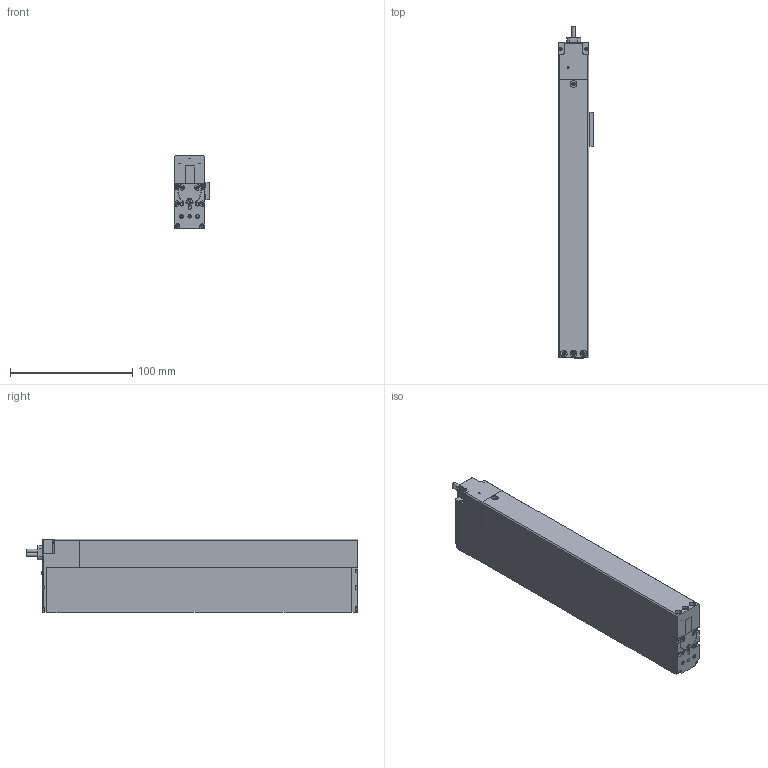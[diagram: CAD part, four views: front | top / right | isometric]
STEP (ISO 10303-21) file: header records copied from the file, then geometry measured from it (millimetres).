
FILE_DESCRIPTION((''),'2;1');
FILE_NAME('F:\LCS25-150-1_A.stp','2015-08-27T16:03:30',('sean'),(''),'Autodesk Inventor 2008','Autodesk Inventor 2008','');
FILE_SCHEMA(('AUTOMOTIVE_DESIGN { 1 0 10303 214 1 1 1 1 }'));
Length unit declared in the file: millimetre
Products named in the file (22): LCS25-150-1_A; 11616-02_A; 140141-01_A; 11604-01_B; 180033-01_A; LCA25-COVER; 23622-01_B3; BUMPER; BS 4183 Slotted Cheese Head Machine Screw - Metric M2.2 x 3; CABLE-G_B; LCA25-34516-01_B; 34516-01_B; CNN-14P-1mm; SM04B-SSR-H-TB; SM98B-SSR-H-TB; 66549-02_A; 66549-01_A; LWLG7R195; MLG7C1; AS 1427 (8) - Metric M2 x 4; 140142-02_A; 220112-01_1
Assembly tree (45 placements, depth 4):
  LCS25-150-1_A
    11616-02_A
    140141-01_A
    11604-01_B
    180033-01_A
    LCA25-COVER
      23622-01_B3
      BUMPER
      BS 4183 Slotted Cheese Head Machine Screw - Metric M2.2 x 3  x2
      CABLE-G_B
      LCA25-34516-01_B
        34516-01_B
        CNN-14P-1mm
        SM04B-SSR-H-TB
        SM98B-SSR-H-TB
    66549-02_A  x8
    66549-01_A  x16
    LWLG7R195
    MLG7C1
    AS 1427 (8) - Metric M2 x 4  x2
    140142-02_A
    220112-01_1
Bounding box: 29 x 271.51 x 60 mm (x, y, z)
Volume: 170347.2 mm3; surface area: 143479.3 mm2
Topology: 45 solids, 45 shells, 1284 faces, 3361 edges, 2208 vertices
Faces by surface type: plane 817, bspline 230, cylinder 183, cone 38, torus 16
Full cylindrical faces by diameter (mm): 0.5 x2, 1.509 x2, 1.56 x4, 1.567 x3, 1.57 x4, 1.924 x2, 2 x2, 2.2 x2, 2.4 x13, 2.459 x1, 3 x5, 3.5 x1, 4 x1, 4.2 x5, 4.4 x2, 4.5 x1, 11.1 x1, 11.5 x2, 14 x1
Entity records: 37491 total; most frequent: CARTESIAN_POINT 10215, ORIENTED_EDGE 5320, DIRECTION 5201, EDGE_CURVE 2660, VECTOR 1885, LINE 1885, VERTEX_POINT 1872, AXIS2_PLACEMENT_3D 1658
